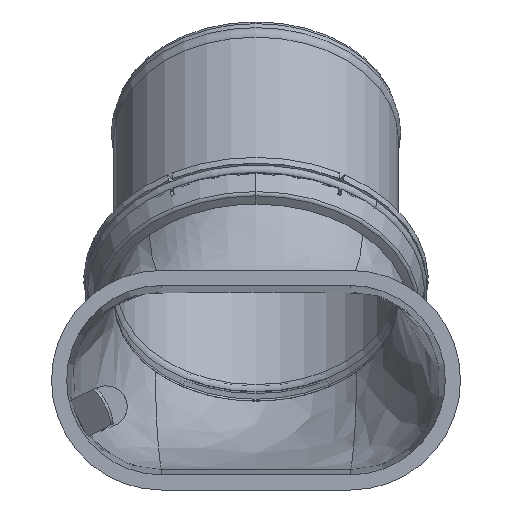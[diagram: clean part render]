
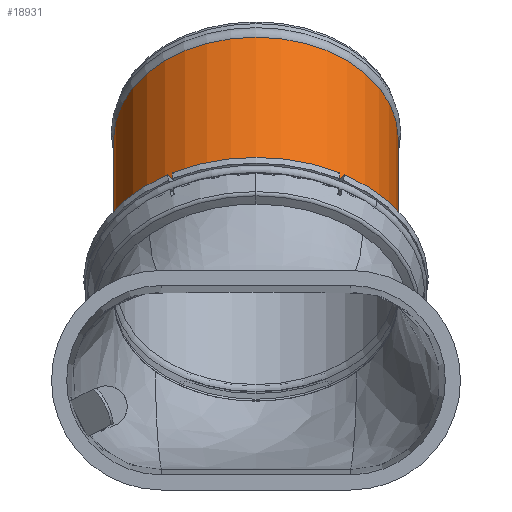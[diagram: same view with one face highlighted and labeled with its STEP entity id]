
A CAD part, top view. The second image highlights one B-rep face of the part: STEP entity #18931.
In plain terms, the highlighted cylindrical face has radius 75 mm (diameter 150 mm), a partial arc.
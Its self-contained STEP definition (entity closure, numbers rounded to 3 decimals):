
#16950=CARTESIAN_POINT('',(0.,121.859,0.));
#16951=DIRECTION('',(0.,-1.,0.));
#16952=DIRECTION('',(1.,0.,0.));
#16953=AXIS2_PLACEMENT_3D('',#16950,#16951,#16952);
#16960=DIRECTION('',(0.,1.,0.));
#16961=VECTOR('',#16960,110.834);
#16962=CARTESIAN_POINT('',(75.,11.025,0.));
#16963=LINE('',#16962,#16961);
#16964=CARTESIAN_POINT('',(0.,11.025,0.));
#16965=DIRECTION('',(0.,-1.,0.));
#16966=DIRECTION('',(1.,0.,0.));
#16967=AXIS2_PLACEMENT_3D('',#16964,#16965,#16966);
#16969=DIRECTION('',(0.,1.,0.));
#16970=VECTOR('',#16969,110.834);
#16971=CARTESIAN_POINT('',(-75.,11.025,0.));
#16972=LINE('',#16971,#16970);
#17198=CARTESIAN_POINT('',(75.,11.025,0.));
#17199=VERTEX_POINT('',#17198);
#17206=CARTESIAN_POINT('',(-75.,11.025,0.));
#17207=VERTEX_POINT('',#17206);
#17214=CARTESIAN_POINT('',(75.,121.859,0.));
#17216=VERTEX_POINT('',#17214);
#17222=CARTESIAN_POINT('',(-75.,121.859,0.));
#17224=VERTEX_POINT('',#17222);
#18917=CARTESIAN_POINT('',(0.,0.,0.));
#18918=DIRECTION('',(0.,1.,0.));
#18919=DIRECTION('',(1.,0.,0.));
#18920=AXIS2_PLACEMENT_3D('',#18917,#18918,#18919);
#18921=CYLINDRICAL_SURFACE('',#18920,75.);
#18923=ORIENTED_EDGE('',*,*,#18922,.F.);
#18925=ORIENTED_EDGE('',*,*,#18924,.T.);
#18927=ORIENTED_EDGE('',*,*,#18926,.T.);
#18928=ORIENTED_EDGE('',*,*,#18910,.F.);
#18929=EDGE_LOOP('',(#18923,#18925,#18927,#18928));
#18930=FACE_OUTER_BOUND('',#18929,.F.);
#16954=CIRCLE('',#16953,75.);
#16968=CIRCLE('',#16967,75.);
#18910=EDGE_CURVE('',#17216,#17224,#16954,.T.);
#18922=EDGE_CURVE('',#17199,#17216,#16963,.T.);
#18924=EDGE_CURVE('',#17199,#17207,#16968,.T.);
#18926=EDGE_CURVE('',#17207,#17224,#16972,.T.);
#18931=ADVANCED_FACE('',(#18930),#18921,.T.);
